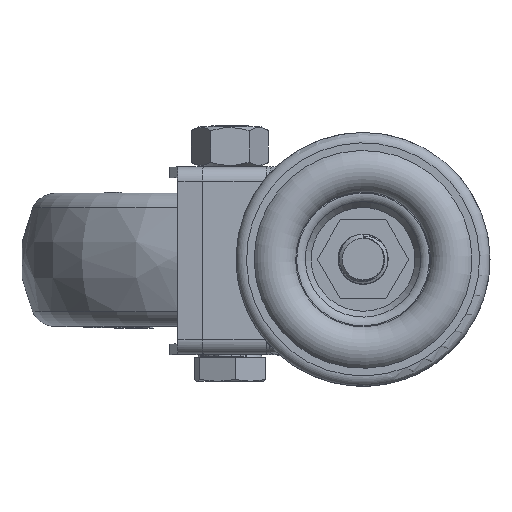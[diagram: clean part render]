
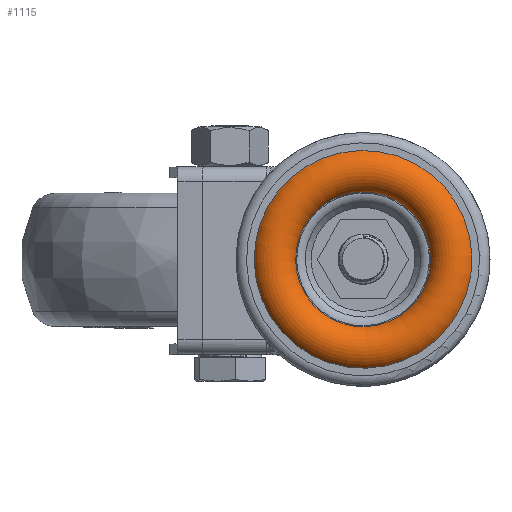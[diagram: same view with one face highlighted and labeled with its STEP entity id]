
A CAD part, top view. The second image highlights one B-rep face of the part: STEP entity #1115.
In plain terms, the highlighted toroidal (fillet/blend) face has major radius 21.5 mm and minor radius 5.6 mm.
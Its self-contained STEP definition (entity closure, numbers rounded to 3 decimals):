
#343=TOROIDAL_SURFACE('',#14370,21.5,5.6);
#1115=ADVANCED_FACE('',(#5151,#5152),#343,.T.);
#5151=FACE_BOUND('',#5418,.T.);
#5152=FACE_BOUND('',#5419,.T.);
#5418=EDGE_LOOP('',(#6554));
#5419=EDGE_LOOP('',(#6555));
#6554=ORIENTED_EDGE('',*,*,#12036,.T.);
#6555=ORIENTED_EDGE('',*,*,#12035,.F.);
#10641=VERTEX_POINT('',#21117);
#10642=VERTEX_POINT('',#21120);
#12035=EDGE_CURVE('',#10641,#10641,#13941,.T.);
#12036=EDGE_CURVE('',#10642,#10642,#13942,.T.);
#13941=CIRCLE('',#14367,26.164);
#13942=CIRCLE('',#14369,16.19);
#14367=AXIS2_PLACEMENT_3D('',#21116,#15667,#15668);
#14369=AXIS2_PLACEMENT_3D('',#21119,#15671,#15672);
#14370=AXIS2_PLACEMENT_3D('',#21121,#15673,#15674);
#15667=DIRECTION('',(0.,0.,-1.));
#15668=DIRECTION('',(0.929,0.37,0.));
#15671=DIRECTION('',(0.,0.,-1.));
#15672=DIRECTION('',(0.929,0.37,0.));
#15673=DIRECTION('',(0.,0.,-1.));
#15674=DIRECTION('',(-0.929,-0.37,0.));
#21116=CARTESIAN_POINT('',(0.,0.,-33.502));
#21117=CARTESIAN_POINT('',(24.303,9.692,-33.502));
#21119=CARTESIAN_POINT('',(0.,0.,-34.822));
#21120=CARTESIAN_POINT('',(15.039,5.997,-34.822));
#21121=CARTESIAN_POINT('',(0.,0.,-36.602));
